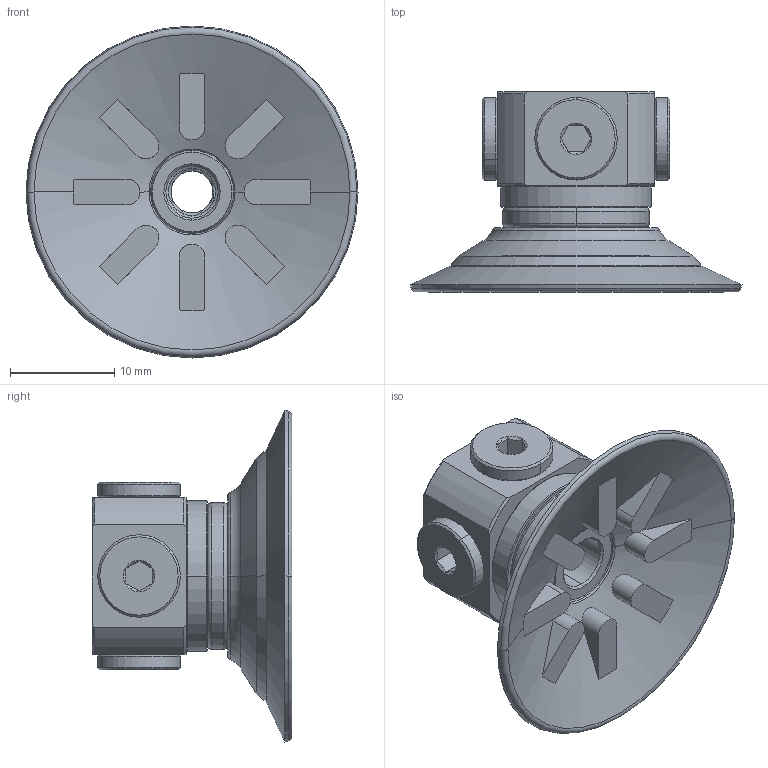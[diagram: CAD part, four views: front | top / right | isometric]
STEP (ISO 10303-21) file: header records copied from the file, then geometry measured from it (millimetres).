
FILE_DESCRIPTION (( 'STEP AP214' ), '1' );
FILE_NAME ('90_30--FM5BD.step', '2024-12-12T07:25:22', ( '' ), ( '' ), 'SwSTEP 2.0', 'SolidWorks 2021', '' );
FILE_SCHEMA (( 'AUTOMOTIVE_DESIGN' ));
Length unit declared in the file: millimetre
Products named in the file (1): 90_30--FM5BD
Bounding box: 31.79 x 19.14 x 31.79 mm (x, y, z)
Volume: 3891.6 mm3; surface area: 5241.8 mm2
Topology: 11 solids, 11 shells, 328 faces, 745 edges, 457 vertices
Faces by surface type: cylinder 96, plane 90, cone 70, torus 62, bspline 10
Entity records: 14255 total; most frequent: CARTESIAN_POINT 6822, DIRECTION 1575, ORIENTED_EDGE 1490, EDGE_CURVE 745, AXIS2_PLACEMENT_3D 671, VERTEX_POINT 457, EDGE_LOOP 368, CIRCLE 352
